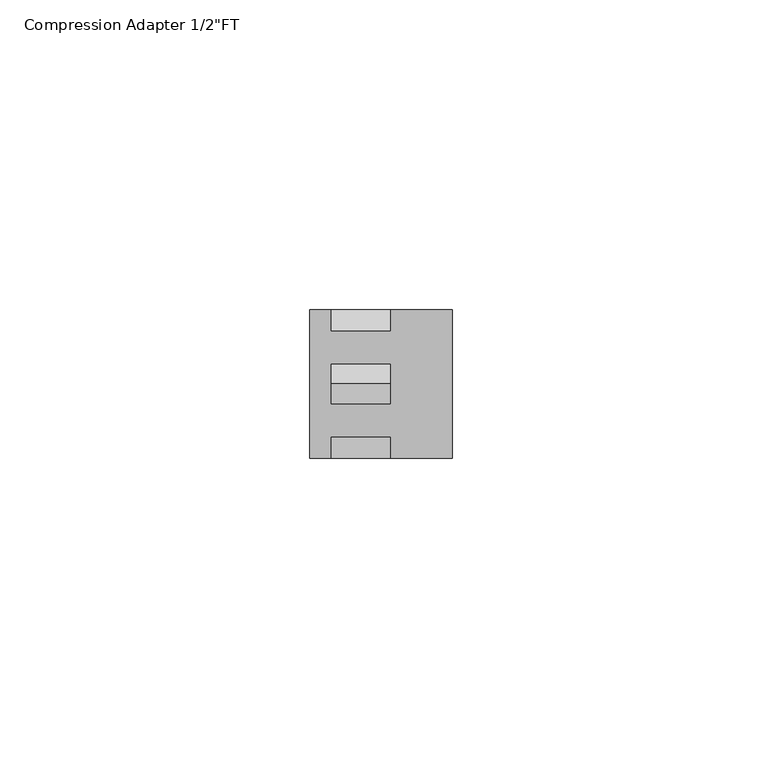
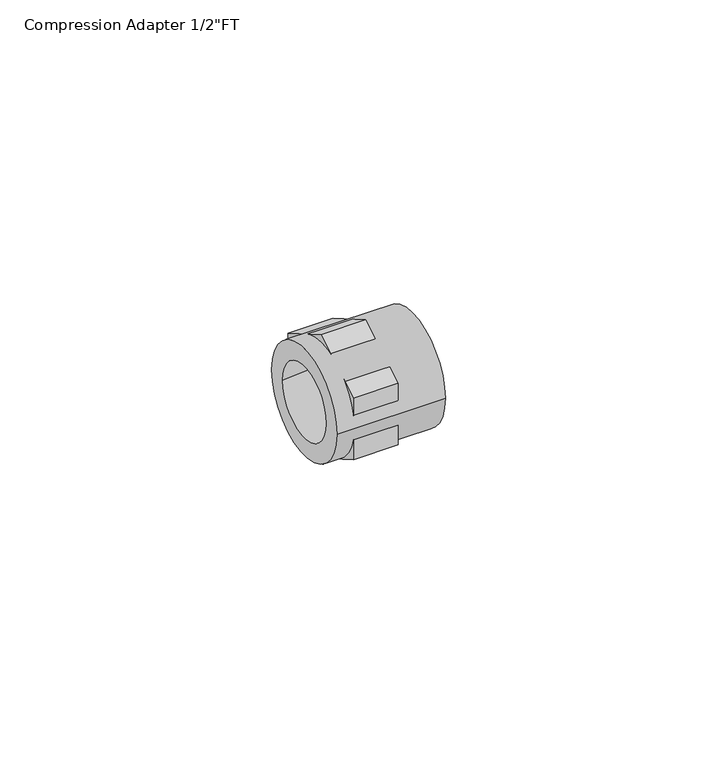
"""IFC4 building model written with IfcOpenShell, lengths in millimetres: pipe fitting geometry."""

from ifc_helpers import new_model, si_unit, point, frame, origin, origin_2d, place, context, project, spatial, polyline, circle_curve, trimmed, segment, composite_curve, outline, extrude, source, transform, mapped, element, save
from ifc_brep_helpers import plane_surface, cylinder_surface, revolved_surface, advanced_brep


def pipe_fitting_fd43bd29(model_context):
    return source(origin(), model_context, "Body", "SolidModel", [
        advanced_brep(
        [(0.0, -12.0, 0.0), (0.0, 12.0, 0.0), (0.0, -8.0, 0.0), (0.0, 8.0, 0.0), (23.0, -12.0, 0.0), (23.0, 12.0, 0.0), (23.0, 10.0, 0.0), (23.0, -10.0, 0.0)],
        [
            (0, 1, circle_curve(frame((0.0, 0.0, 0.0), z_axis=(-1.0, 0.0, 0.0), x_axis=(0.0, 1.0, 0.0)), 12.0)),
            (1, 0, circle_curve(frame((0.0, 0.0, 0.0), z_axis=(-1.0, 0.0, 0.0), x_axis=(0.0, 1.0, 0.0)), 12.0)),
            (2, 3, circle_curve(frame((0.0, 0.0, 0.0), z_axis=(1.0, 0.0, 0.0), x_axis=(0.0, -1.0, 0.0)), 8.0)),
            (3, 2, circle_curve(frame((0.0, 0.0, 0.0), z_axis=(1.0, 0.0, 0.0), x_axis=(0.0, 1.0, 0.0)), 8.0)),
            (4, 5, circle_curve(frame((23.0, 0.0, 0.0), z_axis=(1.0, 0.0, 0.0), x_axis=(0.0, 1.0, 0.0)), 12.0)),
            (5, 4, circle_curve(frame((23.0, 0.0, 0.0), z_axis=(1.0, 0.0, 0.0), x_axis=(0.0, 1.0, 0.0)), 12.0)),
            (6, 7, circle_curve(frame((23.0, 0.0, 0.0), z_axis=(-1.0, 0.0, 0.0), x_axis=(0.0, -1.0, 0.0)), 10.0)),
            (7, 6, circle_curve(frame((23.0, 0.0, 0.0), z_axis=(-1.0, 0.0, 0.0), x_axis=(0.0, 1.0, 0.0)), 10.0)),
            (0, 4),
            (5, 1),
            (2, 7),
            (6, 3),
        ],
        [
            plane_surface(frame((0.0, 0.0, 0.0), z_axis=(-1.0, 0.0, 0.0), x_axis=(0.0, 0.0, 1.0))),
            plane_surface(frame((23.0, 0.0, 0.0), z_axis=(1.0, 0.0, 0.0), x_axis=(0.0, 0.0, 1.0))),
            cylinder_surface(frame((0.0, 0.0, 0.0), z_axis=(-1.0, 0.0, 0.0), x_axis=(0.0, 1.0, 0.0)), 12.0),
            revolved_surface(polyline([(23.0, -10.0, 0.0), (0.0, -8.0, 0.0)]), (-92.0, 0.0, 0.0), (1.0, 0.0, 0.0)),
        ],
        [
            (0, [[1, 2], [3, 4]]),
            (1, [[5, 6], [7, 8]]),
            (2, [[-1, 9, -6, 10]]),
            (2, [[-2, -10, -5, -9]]),
            (3, [[11, -7, 12, -3]]),
            (3, [[-11, -4, -12, -8]]),
        ],
    ),
        extrude(outline(polyline([(0.0, -13.8564065), (-12.0, -6.9282032), (-12.0, 6.9282032), (0.0, 13.8564065), (12.0, 6.9282032), (12.0, -6.9282032), (0.0, -13.8564065)]), holes=[composite_curve([segment(trimmed(circle_curve(origin_2d(), 10.0), [point((-10.0, 0.0))], [point((10.0, 0.0))], True, "CARTESIAN"), True, "CONTINUOUS"), segment(trimmed(circle_curve(origin_2d(), 10.0), [point((10.0, 0.0))], [point((-10.0, 0.0))], True, "CARTESIAN"), True, "CONTINUOUS")], self_intersect=False)]), frame((3.5, 0.0, 0.0), z_axis=(1.0, 0.0, 0.0), x_axis=(0.0, 1.0, 0.0)), (0.0, 0.0, 1.0), 9.5),
    ])


if __name__ == "__main__":
    model = new_model("IFC4")
    model_context = context("Model", 3, world=origin())
    ifc_project = project(units=[si_unit("LENGTHUNIT", "METRE", prefix="MILLI")], contexts=[model_context])
    site = spatial("IfcSite", under=ifc_project)
    building = spatial("IfcBuilding", under=site)
    placement = place(None, origin())
    pipe_fitting_shape = pipe_fitting_fd43bd29(model_context)
    element("IfcPipeFitting", 1, ObjectType="Compression Adapter 1/2\"FT : Superpipe Compression Adapter", at=placement, inside=building, context=model_context, shape_type="MappedRepresentation", body=[
        mapped(pipe_fitting_shape, transform((0.0, 0.0, 0.0), x_axis=(1.0, 0.0, 0.0), y_axis=(0.0, 1.0, 0.0), z_axis=(0.0, 0.0, 1.0))),
    ])
    save(model, "model.ifc")
